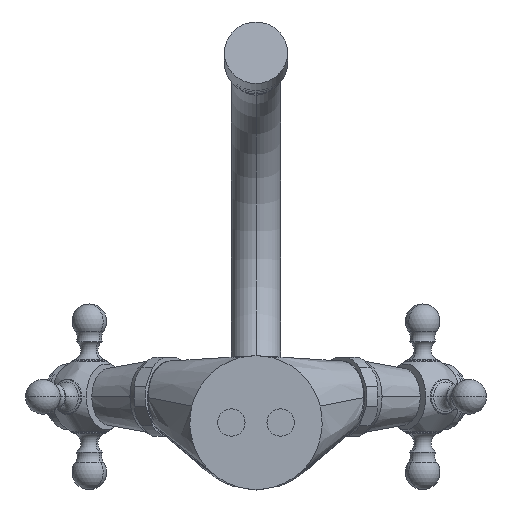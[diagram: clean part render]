
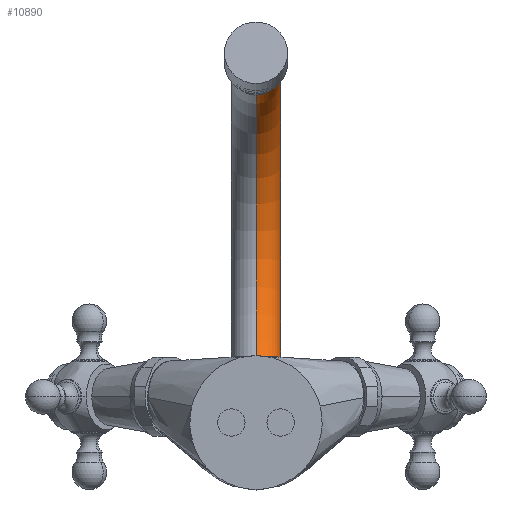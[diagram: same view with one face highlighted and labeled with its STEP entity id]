
A CAD part, front view. The second image highlights one B-rep face of the part: STEP entity #10890.
In plain terms, the highlighted toroidal (fillet/blend) face has major radius 68.975 mm and minor radius 9 mm.
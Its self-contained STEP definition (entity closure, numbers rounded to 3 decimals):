
#10736=CARTESIAN_POINT('',(0.,196.293,-7.575));
#10737=DIRECTION('',(0.,1.,0.));
#10738=DIRECTION('',(0.,0.,1.));
#10739=AXIS2_PLACEMENT_3D('',#10736,#10737,#10738);
#10741=CARTESIAN_POINT('',(0.,196.293,61.399));
#10742=DIRECTION('',(1.,0.,0.));
#10743=DIRECTION('',(0.,0.,-1.));
#10744=AXIS2_PLACEMENT_3D('',#10741,#10742,#10743);
#10751=CARTESIAN_POINT('',(0.,196.293,61.399));
#10752=DIRECTION('',(1.,0.,0.));
#10753=DIRECTION('',(0.,0.,-1.));
#10754=AXIS2_PLACEMENT_3D('',#10751,#10752,#10753);
#10779=CARTESIAN_POINT('',(0.,211.809,128.606));
#10780=DIRECTION('',(0.,-0.974,0.225));
#10781=DIRECTION('',(0.,-0.225,-0.974));
#10782=AXIS2_PLACEMENT_3D('',#10779,#10780,#10781);
#10822=CARTESIAN_POINT('',(0.,196.293,-16.575));
#10823=CARTESIAN_POINT('',(0.,196.293,1.425));
#10824=VERTEX_POINT('',#10822);
#10825=VERTEX_POINT('',#10823);
#10834=CARTESIAN_POINT('',(0.,213.833,137.375));
#10835=CARTESIAN_POINT('',(0.,209.784,119.837));
#10836=VERTEX_POINT('',#10834);
#10837=VERTEX_POINT('',#10835);
#10876=CARTESIAN_POINT('',(0.,196.293,61.399));
#10877=DIRECTION('',(1.,0.,0.));
#10878=DIRECTION('',(0.,0.,1.));
#10879=AXIS2_PLACEMENT_3D('',#10876,#10877,#10878);
#10880=TOROIDAL_SURFACE('',#10879,68.974,9.);
#10881=ORIENTED_EDGE('',*,*,#10870,.F.);
#10883=ORIENTED_EDGE('',*,*,#10882,.T.);
#10885=ORIENTED_EDGE('',*,*,#10884,.T.);
#10887=ORIENTED_EDGE('',*,*,#10886,.F.);
#10888=EDGE_LOOP('',(#10881,#10883,#10885,#10887));
#10889=FACE_OUTER_BOUND('',#10888,.F.);
#10890=ADVANCED_FACE('',(#10889),#10880,.T.);
#10740=CIRCLE('',#10739,9.);
#10745=CIRCLE('',#10744,59.974);
#10755=CIRCLE('',#10754,77.974);
#10783=CIRCLE('',#10782,9.);
#10870=EDGE_CURVE('',#10825,#10824,#10740,.T.);
#10882=EDGE_CURVE('',#10825,#10837,#10745,.T.);
#10884=EDGE_CURVE('',#10837,#10836,#10783,.T.);
#10886=EDGE_CURVE('',#10824,#10836,#10755,.T.);
